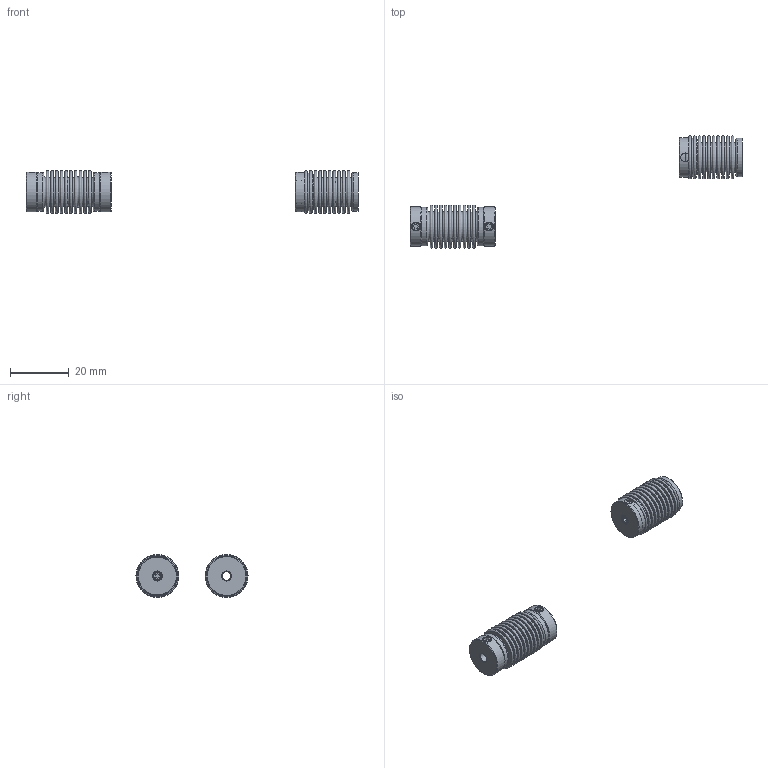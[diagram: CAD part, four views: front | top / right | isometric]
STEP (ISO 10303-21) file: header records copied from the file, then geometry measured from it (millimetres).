
FILE_DESCRIPTION( ( 'Unknown' ), '1' );
FILE_NAME( 'C:/Dokumente und Einstellungen/Sven/Desktop/cad - homepage/KB1/KB1-10-29.stp', 'Unknown', ( 'Unknown' ), ( 'Unknown' ), 'XStep 1.0', 'Unknown', ' ' );
FILE_SCHEMA( ( 'automotive_design' ) );
Length unit declared in the file: millimetre
Products named in the file (4): Assem1; MN10_Standard_1; BL10_Standard; Socket Set Screw Cup Point_DIN_DIN 916 - M3 x 4-N_2
Bounding box: 112.71 x 38.08 x 14.6 mm (x, y, z)
Volume: 2799 mm3; surface area: 11758.8 mm2
Topology: 8 solids, 8 shells, 258 faces, 461 edges, 301 vertices
Faces by surface type: plane 122, torus 92, cylinder 23, cone 21
Full cylindrical faces by diameter (mm): 3 x9, 12.9 x7, 13.1 x4, 13.5 x3
Entity records: 3353 total; most frequent: DIRECTION 488, CARTESIAN_POINT 428, ORIENTED_EDGE 260, AXIS2_PLACEMENT_3D 235, EDGE_LOOP 230, FACE_OUTER_BOUND 173, EDGE_CURVE 130, VERTEX_POINT 125
